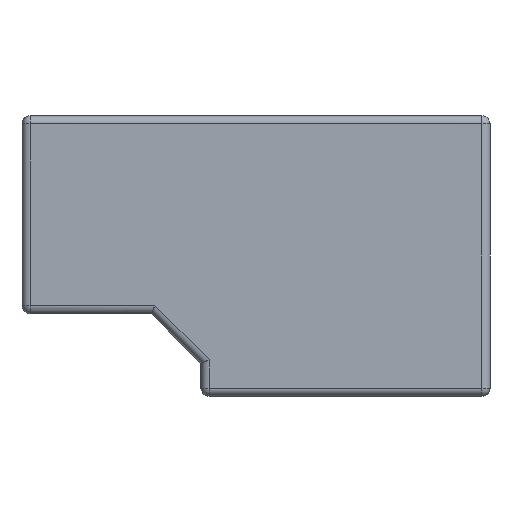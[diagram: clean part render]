
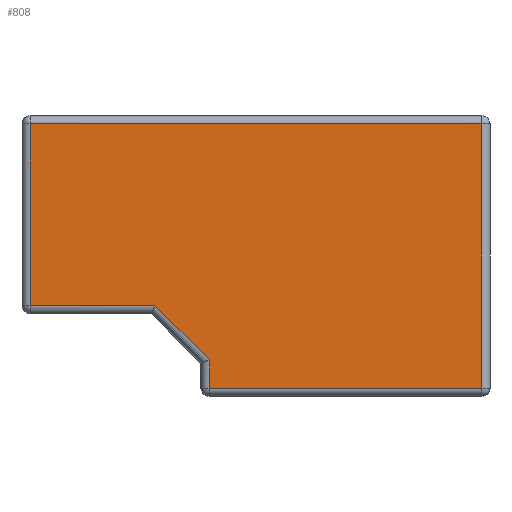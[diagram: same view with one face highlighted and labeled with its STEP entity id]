
A CAD part, front view. The second image highlights one B-rep face of the part: STEP entity #808.
In plain terms, the highlighted planar face has unit normal (0, -1, 0).
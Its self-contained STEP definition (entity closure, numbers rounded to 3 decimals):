
#26=DIRECTION('',(-0.707,0.,0.707));
#27=VECTOR('',#26,2.794);
#28=CARTESIAN_POINT('',(-10.2,0.,-8.876));
#29=LINE('',#28,#27);
#34=DIRECTION('',(0.,0.,1.));
#35=VECTOR('',#34,9.6);
#36=CARTESIAN_POINT('',(-0.3,0.,-9.9));
#37=LINE('',#36,#35);
#123=DIRECTION('',(1.,0.,0.));
#124=VECTOR('',#123,4.524);
#125=CARTESIAN_POINT('',(-16.7,0.,-6.9));
#126=LINE('',#125,#124);
#153=DIRECTION('',(0.,0.,-1.));
#154=VECTOR('',#153,1.024);
#155=CARTESIAN_POINT('',(-10.2,0.,-8.876));
#156=LINE('',#155,#154);
#176=DIRECTION('',(1.,0.,0.));
#177=VECTOR('',#176,9.9);
#178=CARTESIAN_POINT('',(-10.2,0.,-9.9));
#179=LINE('',#178,#177);
#559=DIRECTION('',(0.,0.,-1.));
#560=VECTOR('',#559,6.6);
#561=CARTESIAN_POINT('',(-16.7,0.,-0.3));
#562=LINE('',#561,#560);
#591=DIRECTION('',(-1.,0.,0.));
#592=VECTOR('',#591,16.4);
#593=CARTESIAN_POINT('',(-0.3,0.,-0.3));
#594=LINE('',#593,#592);
#615=CARTESIAN_POINT('',(-0.3,0.,-9.9));
#616=CARTESIAN_POINT('',(-0.3,0.,-0.3));
#617=VERTEX_POINT('',#615);
#618=VERTEX_POINT('',#616);
#619=CARTESIAN_POINT('',(-10.2,0.,-9.9));
#620=VERTEX_POINT('',#619);
#621=CARTESIAN_POINT('',(-10.2,0.,-8.876));
#622=VERTEX_POINT('',#621);
#623=CARTESIAN_POINT('',(-12.176,0.,-6.9));
#624=VERTEX_POINT('',#623);
#625=CARTESIAN_POINT('',(-16.7,0.,-6.9));
#626=VERTEX_POINT('',#625);
#627=CARTESIAN_POINT('',(-16.7,0.,-0.3));
#628=VERTEX_POINT('',#627);
#787=CARTESIAN_POINT('',(0.,0.,0.));
#788=DIRECTION('',(0.,1.,0.));
#789=DIRECTION('',(1.,0.,0.));
#790=AXIS2_PLACEMENT_3D('',#787,#788,#789);
#791=PLANE('',#790);
#793=ORIENTED_EDGE('',*,*,#792,.F.);
#795=ORIENTED_EDGE('',*,*,#794,.F.);
#797=ORIENTED_EDGE('',*,*,#796,.F.);
#799=ORIENTED_EDGE('',*,*,#798,.T.);
#801=ORIENTED_EDGE('',*,*,#800,.F.);
#803=ORIENTED_EDGE('',*,*,#802,.F.);
#805=ORIENTED_EDGE('',*,*,#804,.F.);
#806=EDGE_LOOP('',(#793,#795,#797,#799,#801,#803,#805));
#807=FACE_OUTER_BOUND('',#806,.F.);
#792=EDGE_CURVE('',#617,#618,#37,.T.);
#794=EDGE_CURVE('',#620,#617,#179,.T.);
#796=EDGE_CURVE('',#622,#620,#156,.T.);
#798=EDGE_CURVE('',#622,#624,#29,.T.);
#800=EDGE_CURVE('',#626,#624,#126,.T.);
#802=EDGE_CURVE('',#628,#626,#562,.T.);
#804=EDGE_CURVE('',#618,#628,#594,.T.);
#808=ADVANCED_FACE('',(#807),#791,.F.);
